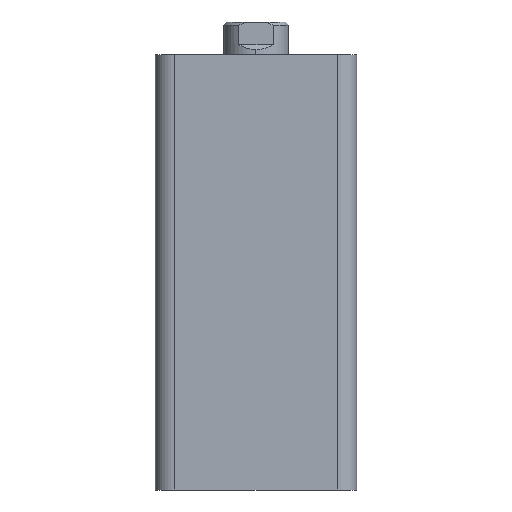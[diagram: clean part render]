
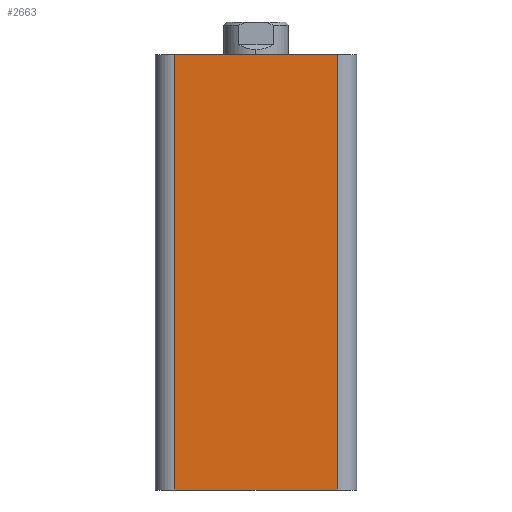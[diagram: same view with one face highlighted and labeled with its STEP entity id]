
A CAD part, left-side view. The second image highlights one B-rep face of the part: STEP entity #2663.
In plain terms, the highlighted planar face has unit normal (-1, 0, 0).
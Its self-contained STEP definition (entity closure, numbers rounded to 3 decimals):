
#375 = LINE ( 'NONE', #1781, #377 ) ;
#377 = VECTOR ( 'NONE', #1782, 1000. ) ;
#407 = LINE ( 'NONE', #799, #411 ) ;
#411 = VECTOR ( 'NONE', #797, 1000. ) ;
#425 = LINE ( 'NONE', #823, #428 ) ;
#427 = LINE ( 'NONE', #825, #430 ) ;
#428 = VECTOR ( 'NONE', #824, 1000. ) ;
#430 = VECTOR ( 'NONE', #826, 1000. ) ;
#797 = DIRECTION ( 'NONE',  ( 0., -1., 0. ) ) ;
#799 = CARTESIAN_POINT ( 'NONE',  ( -31., 31., 0. ) ) ;
#823 = CARTESIAN_POINT ( 'NONE',  ( -31., -25., 134. ) ) ;
#824 = DIRECTION ( 'NONE',  ( 0., 0., 1. ) ) ;
#825 = CARTESIAN_POINT ( 'NONE',  ( -31., 25., 134. ) ) ;
#826 = DIRECTION ( 'NONE',  ( 0., 0., -1. ) ) ;
#1781 = CARTESIAN_POINT ( 'NONE',  ( -31., 31., 134. ) ) ;
#1782 = DIRECTION ( 'NONE',  ( 0., -1., 0. ) ) ;
#1991 = CARTESIAN_POINT ( 'NONE',  ( -31., -25., 0. ) ) ;
#1992 = CARTESIAN_POINT ( 'NONE',  ( -31., 25., 0. ) ) ;
#2019 = CARTESIAN_POINT ( 'NONE',  ( -31., -25., 134. ) ) ;
#2046 = CARTESIAN_POINT ( 'NONE',  ( -31., 25., 134. ) ) ;
#2663 = ADVANCED_FACE ( 'NONE', ( #2958 ), #2980, .F. ) ;
#2949 = EDGE_CURVE ( 'NONE', #3851, #3488, #375, .T. ) ;
#2958 = FACE_OUTER_BOUND ( 'NONE', #3682, .T. ) ;
#2973 = CARTESIAN_POINT ( 'NONE',  ( -31., 31., 134. ) ) ;
#2980 = PLANE ( 'NONE',  #4856 ) ;
#2982 = DIRECTION ( 'NONE',  ( 1., 0., 0. ) ) ;
#2983 = DIRECTION ( 'NONE',  ( 0., 0., -1. ) ) ;
#3092 = EDGE_CURVE ( 'NONE', #3461, #3460, #407, .T. ) ;
#3102 = EDGE_CURVE ( 'NONE', #3460, #3488, #425, .T. ) ;
#3103 = EDGE_CURVE ( 'NONE', #3851, #3461, #427, .T. ) ;
#3460 = VERTEX_POINT ( 'NONE', #1991 ) ;
#3461 = VERTEX_POINT ( 'NONE', #1992 ) ;
#3488 = VERTEX_POINT ( 'NONE', #2019 ) ;
#3682 = EDGE_LOOP ( 'NONE', ( #3722, #3723, #3724, #3725 ) ) ;
#3722 = ORIENTED_EDGE ( 'NONE', *, *, #3092, .T. ) ;
#3723 = ORIENTED_EDGE ( 'NONE', *, *, #3102, .T. ) ;
#3724 = ORIENTED_EDGE ( 'NONE', *, *, #2949, .F. ) ;
#3725 = ORIENTED_EDGE ( 'NONE', *, *, #3103, .T. ) ;
#3851 = VERTEX_POINT ( 'NONE', #2046 ) ;
#4856 = AXIS2_PLACEMENT_3D ( 'NONE', #2973, #2982, #2983 ) ;
